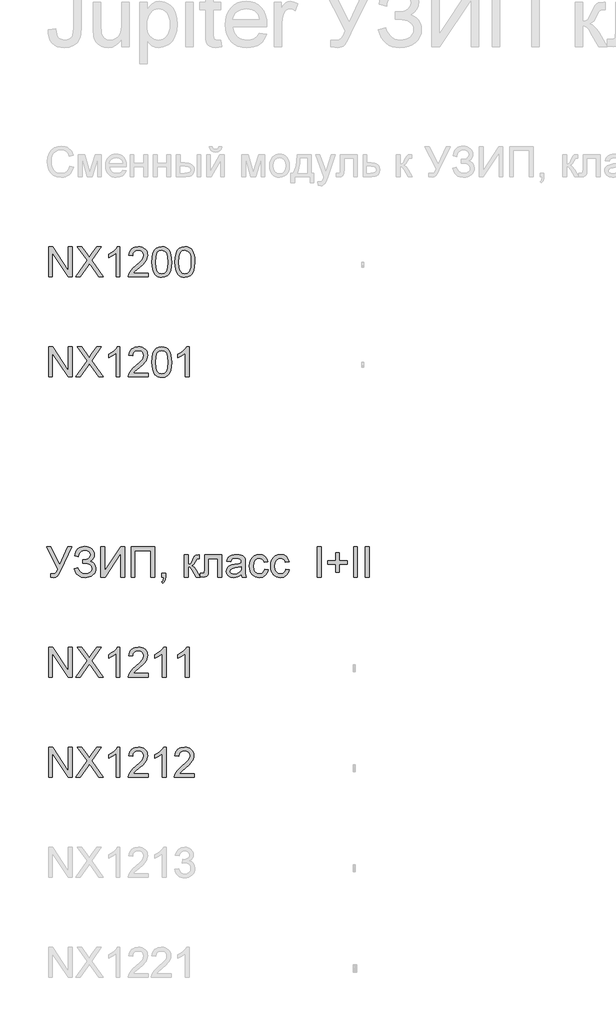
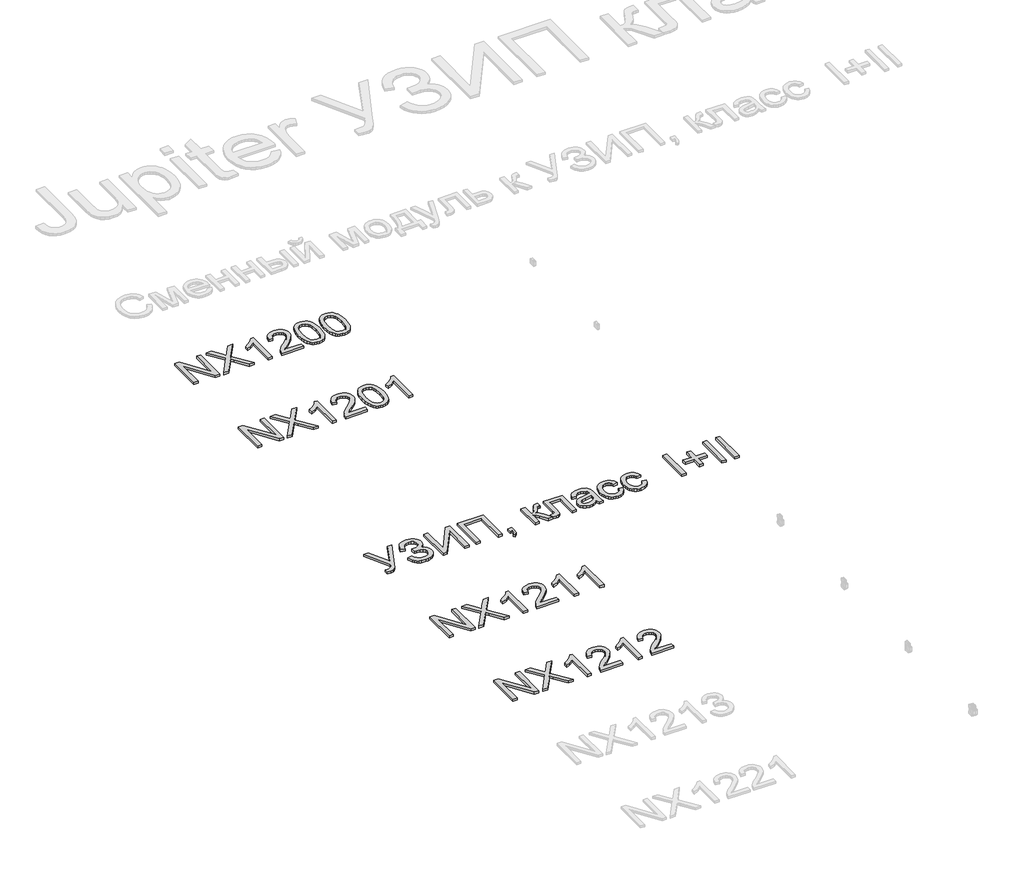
# One storey, part 30 of 124: 5 proxies.
"""IFC4 building model written with IfcOpenShell, lengths in millimetres."""

from ifc_helpers import new_model, si_unit, origin, origin_with_axes, place, context, project, spatial, polyline, outline, extrude, element, save

model = new_model("IFC4")

# Units and contexts
model_context = context("Model", 3, world=origin())
ifc_project = project(units=[si_unit("LENGTHUNIT", "METRE", prefix="MILLI")], contexts=[model_context])

# Site, building, storey
site = spatial("IfcSite", under=ifc_project)
building = spatial("IfcBuilding", under=site)
storey = spatial("IfcBuildingStorey", under=building, Name="Этаж 01", Elevation=0.0)

# Proxies
placement = place(None, origin())
element("IfcBuildingElementProxy", 1, Name="300", ObjectType="300", at=placement, inside=storey, context=model_context, shape_type="SweptSolid", body=[
    extrude(outline(polyline([(49499.8220677, -102181.4490745), (49499.8220677, -101880.080144), (49540.1419344, -101880.080144), (49697.5954283, -102118.8355589), (49697.5954283, -101880.080144), (49735.2665446, -101880.080144), (49735.2665446, -102181.4490745), (49694.9466779, -102181.4490745), (49537.493184, -101942.6200832), (49537.493184, -102181.4490745), (49499.8220677, -102181.4490745)])), origin_with_axes(), (0.0, 0.0, 1.0), 20.0),
    extrude(outline(polyline([(49768.2287714, -102181.4490745), (49884.4059055, -102017.2265518), (49787.0643295, -101880.080144), (49832.2402385, -101880.080144), (49887.0546558, -101957.2617866), (49905.522332, -101987.3545338), (49927.1537933, -101956.7467518), (49981.3795994, -101880.080144), (50027.217696, -101880.080144), (49929.8761201, -102017.6680102), (50046.0532541, -102181.4490745), (50000.8773451, -102181.4490745), (49923.4749733, -102072.2616983), (49907.361742, -102049.6001674), (49889.6298298, -102074.4689903), (49814.066868, -102181.4490745), (49768.2287714, -102181.4490745)])), origin_with_axes(), (0.0, 0.0, 1.0), 20.0),
    extrude(outline(polyline([(50210.864388, -102181.4490745), (50173.1932717, -102181.4490745), (50173.1932717, -101946.5932087), (50137.5087181, -101972.0138546), (50097.8510391, -101991.0333538), (50097.8510391, -101955.4223766), (50127.4379485, -101939.3275393), (50153.0701265, -101920.1792815), (50173.2760451, -101899.817013), (50186.5841763, -101880.080144), (50210.864388, -101880.080144), (50210.864388, -102181.4490745)])), origin_with_axes(), (0.0, 0.0, 1.0), 20.0),
    extrude(outline(polyline([(50493.3977603, -102143.7779581), (50493.3977603, -102181.4490745), (50295.6243997, -102181.4490745), (50299.6711016, -102155.4766056), (50308.960122, -102135.1787165), (50322.5533617, -102115.4878327), (50342.2166543, -102094.8772439), (50369.7158335, -102071.8202399), (50410.366794, -102035.7126221), (50434.7573702, -102009.0595715), (50446.9526584, -101987.4281102), (50451.0177544, -101966.3852601), (50447.1825846, -101947.5221108), (50435.6770752, -101931.8411407), (50417.9911483, -101921.2737304), (50395.6147259, -101917.7512603), (50372.1162635, -101921.190957), (50353.8601195, -101931.5100469), (50342.0786986, -101947.8991898), (50338.0044055, -101969.5490452), (50300.3332892, -101964.8401557), (50309.4659597, -101928.4014441), (50318.0123183, -101913.8655067), (50329.2120258, -101901.7851817), (50342.8075648, -101892.2892277), (50358.5414179, -101885.5064034), (50396.4240663, -101880.080144), (50416.6138901, -101881.5884602), (50434.5826263, -101886.1134087), (50450.3302749, -101893.6549896), (50463.8568361, -101904.2132029), (50474.7208512, -101917.0062993), (50482.4808621, -101931.2525295), (50487.1368686, -101946.9518937), (50488.6888707, -101964.1043917), (50487.0150077, -101982.1214124), (50481.9934184, -101999.8257334), (50473.0814771, -102017.8335571), (50459.7365577, -102036.7610858), (50438.4637813, -102059.3582373), (50405.768269, -102088.3749297), (50362.43177, -102124.6113062), (50345.4356218, -102143.7779581), (50493.3977603, -102143.7779581)])), origin_with_axes(), (0.0, 0.0, 1.0), 20.0),
    extrude(outline(polyline([(50531.0688766, -102033.1926304), (50533.8371886, -101984.9541038), (50542.1421246, -101946.4828441), (50555.9009112, -101917.1902403), (50575.030775, -101896.487681), (50599.6696716, -101884.1820283), (50629.9555569, -101880.080144), (50653.1689108, -101882.5081652), (50673.9542435, -101889.7922287), (50691.3366678, -101901.647226), (50704.3412963, -101917.7880485), (50714.1637456, -101938.0767405), (50721.9996321, -101962.3753463), (50727.1315859, -101993.2314487), (50728.8422372, -102033.1926304), (50726.1015163, -102081.1552455), (50717.8793537, -102119.5345347), (50704.2033406, -102148.8547297), (50685.101068, -102169.6400624), (50660.406989, -102182.0284886), (50629.9555569, -102186.157964), (50609.2070123, -102184.3645393), (50590.8129126, -102178.9842651), (50574.7732576, -102170.0171415), (50561.0880474, -102157.4631684), (50547.9546602, -102134.7694478), (50538.5736693, -102106.4931179), (50532.9450747, -102072.6341788), (50531.0688766, -102033.1926304)]), holes=[polyline([(50568.7399929, -102033.119054), (50573.1545768, -102092.3756464), (50578.6728067, -102112.643645), (50586.3983286, -102126.6714454), (50606.1168036, -102143.0329971), (50629.9555569, -102148.4868477), (50653.7943102, -102143.014603), (50673.5127851, -102126.597869), (50681.238307, -102112.547076), (50686.7565369, -102092.2836759), (50691.1711209, -102033.119054), (50686.9036897, -101975.1960339), (50681.5694008, -101954.9947138), (50674.1013963, -101940.6335204), (50654.4197096, -101923.4718253), (50629.5140985, -101917.7512603), (50605.9328626, -101922.7912436), (50586.9869398, -101937.9111936), (50579.0039005, -101953.5461784), (50573.3017296, -101974.6258168), (50568.7399929, -102033.119054)])]), origin_with_axes(), (0.0, 0.0, 1.0), 20.0),
    extrude(outline(polyline([(50761.8044639, -102033.1926304), (50764.572776, -101984.9541038), (50772.877712, -101946.4828441), (50786.6364986, -101917.1902403), (50805.7663624, -101896.487681), (50830.405259, -101884.1820283), (50860.6911443, -101880.080144), (50883.9044981, -101882.5081652), (50904.6898309, -101889.7922287), (50922.0722551, -101901.647226), (50935.0768837, -101917.7880485), (50944.8993329, -101938.0767405), (50952.7352194, -101962.3753463), (50957.8671733, -101993.2314487), (50959.5778246, -102033.1926304), (50956.8371037, -102081.1552455), (50948.6149411, -102119.5345347), (50934.9389279, -102148.8547297), (50915.8366553, -102169.6400624), (50891.1425764, -102182.0284886), (50860.6911443, -102186.157964), (50839.9425997, -102184.3645393), (50821.5485, -102178.9842651), (50805.508845, -102170.0171415), (50791.8236348, -102157.4631684), (50778.6902475, -102134.7694478), (50769.3092566, -102106.4931179), (50763.6806621, -102072.6341788), (50761.8044639, -102033.1926304)]), holes=[polyline([(50799.4755803, -102033.119054), (50803.8901642, -102092.3756464), (50809.4083941, -102112.643645), (50817.133916, -102126.6714454), (50836.852391, -102143.0329971), (50860.6911443, -102148.4868477), (50884.5298975, -102143.014603), (50904.2483725, -102126.597869), (50911.9738944, -102112.547076), (50917.4921243, -102092.2836759), (50921.9067082, -102033.119054), (50917.6392771, -101975.1960339), (50912.3049882, -101954.9947138), (50904.8369837, -101940.6335204), (50885.1552969, -101923.4718253), (50860.2496859, -101917.7512603), (50836.66845, -101922.7912436), (50817.7225272, -101937.9111936), (50809.7394879, -101953.5461784), (50804.037317, -101974.6258168), (50799.4755803, -102033.119054)])]), origin_with_axes(), (0.0, 0.0, 1.0), 20.0),
])
element("IfcBuildingElementProxy", 2, Name="300", ObjectType="300", at=placement, inside=storey, context=model_context, shape_type="SweptSolid", body=[
    extrude(outline(polyline([(49499.8220677, -103181.4490745), (49499.8220677, -102880.080144), (49540.1419344, -102880.080144), (49697.5954283, -103118.8355589), (49697.5954283, -102880.080144), (49735.2665446, -102880.080144), (49735.2665446, -103181.4490745), (49694.9466779, -103181.4490745), (49537.493184, -102942.6200832), (49537.493184, -103181.4490745), (49499.8220677, -103181.4490745)])), origin_with_axes(), (0.0, 0.0, 1.0), 20.0),
    extrude(outline(polyline([(49768.2287714, -103181.4490745), (49884.4059055, -103017.2265518), (49787.0643295, -102880.080144), (49832.2402385, -102880.080144), (49887.0546558, -102957.2617866), (49905.522332, -102987.3545338), (49927.1537933, -102956.7467518), (49981.3795994, -102880.080144), (50027.217696, -102880.080144), (49929.8761201, -103017.6680102), (50046.0532541, -103181.4490745), (50000.8773451, -103181.4490745), (49923.4749733, -103072.2616983), (49907.361742, -103049.6001674), (49889.6298298, -103074.4689903), (49814.066868, -103181.4490745), (49768.2287714, -103181.4490745)])), origin_with_axes(), (0.0, 0.0, 1.0), 20.0),
    extrude(outline(polyline([(50210.864388, -103181.4490745), (50173.1932717, -103181.4490745), (50173.1932717, -102946.5932087), (50137.5087181, -102972.0138546), (50097.8510391, -102991.0333538), (50097.8510391, -102955.4223766), (50127.4379485, -102939.3275393), (50153.0701265, -102920.1792815), (50173.2760451, -102899.817013), (50186.5841763, -102880.080144), (50210.864388, -102880.080144), (50210.864388, -103181.4490745)])), origin_with_axes(), (0.0, 0.0, 1.0), 20.0),
    extrude(outline(polyline([(50493.3977603, -103143.7779581), (50493.3977603, -103181.4490745), (50295.6243997, -103181.4490745), (50299.6711016, -103155.4766056), (50308.960122, -103135.1787165), (50322.5533617, -103115.4878327), (50342.2166543, -103094.8772439), (50369.7158335, -103071.8202399), (50410.366794, -103035.7126221), (50434.7573702, -103009.0595715), (50446.9526584, -102987.4281102), (50451.0177544, -102966.3852601), (50447.1825846, -102947.5221108), (50435.6770752, -102931.8411407), (50417.9911483, -102921.2737304), (50395.6147259, -102917.7512603), (50372.1162635, -102921.190957), (50353.8601195, -102931.5100469), (50342.0786986, -102947.8991898), (50338.0044055, -102969.5490452), (50300.3332892, -102964.8401557), (50309.4659597, -102928.4014441), (50318.0123183, -102913.8655067), (50329.2120258, -102901.7851817), (50342.8075648, -102892.2892277), (50358.5414179, -102885.5064034), (50396.4240663, -102880.080144), (50416.6138901, -102881.5884602), (50434.5826263, -102886.1134087), (50450.3302749, -102893.6549896), (50463.8568361, -102904.2132029), (50474.7208512, -102917.0062993), (50482.4808621, -102931.2525295), (50487.1368686, -102946.9518937), (50488.6888707, -102964.1043917), (50487.0150077, -102982.1214124), (50481.9934184, -102999.8257334), (50473.0814771, -103017.8335571), (50459.7365577, -103036.7610858), (50438.4637813, -103059.3582373), (50405.768269, -103088.3749297), (50362.43177, -103124.6113062), (50345.4356218, -103143.7779581), (50493.3977603, -103143.7779581)])), origin_with_axes(), (0.0, 0.0, 1.0), 20.0),
    extrude(outline(polyline([(50531.0688766, -103033.1926304), (50533.8371886, -102984.9541038), (50542.1421246, -102946.4828441), (50555.9009112, -102917.1902403), (50575.030775, -102896.487681), (50599.6696716, -102884.1820283), (50629.9555569, -102880.080144), (50653.1689108, -102882.5081652), (50673.9542435, -102889.7922287), (50691.3366678, -102901.647226), (50704.3412963, -102917.7880485), (50714.1637456, -102938.0767405), (50721.9996321, -102962.3753463), (50727.1315859, -102993.2314487), (50728.8422372, -103033.1926304), (50726.1015163, -103081.1552455), (50717.8793537, -103119.5345347), (50704.2033406, -103148.8547297), (50685.101068, -103169.6400624), (50660.406989, -103182.0284886), (50629.9555569, -103186.157964), (50609.2070123, -103184.3645393), (50590.8129126, -103178.9842651), (50574.7732576, -103170.0171415), (50561.0880474, -103157.4631684), (50547.9546602, -103134.7694478), (50538.5736693, -103106.4931179), (50532.9450747, -103072.6341788), (50531.0688766, -103033.1926304)]), holes=[polyline([(50568.7399929, -103033.119054), (50573.1545768, -103092.3756464), (50578.6728067, -103112.643645), (50586.3983286, -103126.6714454), (50606.1168036, -103143.0329971), (50629.9555569, -103148.4868477), (50653.7943102, -103143.014603), (50673.5127851, -103126.597869), (50681.238307, -103112.547076), (50686.7565369, -103092.2836759), (50691.1711209, -103033.119054), (50686.9036897, -102975.1960339), (50681.5694008, -102954.9947138), (50674.1013963, -102940.6335204), (50654.4197096, -102923.4718253), (50629.5140985, -102917.7512603), (50605.9328626, -102922.7912436), (50586.9869398, -102937.9111936), (50579.0039005, -102953.5461784), (50573.3017296, -102974.6258168), (50568.7399929, -103033.119054)])]), origin_with_axes(), (0.0, 0.0, 1.0), 20.0),
    extrude(outline(polyline([(50903.0711501, -103181.4490745), (50865.4000338, -103181.4490745), (50865.4000338, -102946.5932087), (50829.7154803, -102972.0138546), (50790.0578012, -102991.0333538), (50790.0578012, -102955.4223766), (50819.6447106, -102939.3275393), (50845.2768887, -102920.1792815), (50865.4828072, -102899.817013), (50878.7909384, -102880.080144), (50903.0711501, -102880.080144), (50903.0711501, -103181.4490745)])), origin_with_axes(), (0.0, 0.0, 1.0), 20.0),
])
element("IfcBuildingElementProxy", 3, Name="300", ObjectType="300", at=placement, inside=storey, context=model_context, shape_type="SweptSolid", body=[
    extrude(outline(polyline([(49478.6320648, -104880.080144), (49520.349883, -104880.080144), (49610.4809718, -105058.5764881), (49691.5621636, -104880.080144), (49732.9120998, -104880.080144), (49618.5007993, -105114.8624333), (49601.2287397, -105151.319539), (49587.3779825, -105172.5463302), (49572.6075204, -105182.7550555), (49552.5763458, -105186.157964), (49518.6576258, -105181.4490745), (49518.6576258, -105148.4868477), (49548.3089147, -105148.4868477), (49560.173109, -105146.3899203), (49570.308258, -105140.0991382), (49580.0387367, -105126.3587457), (49590.6889205, -105101.9129871), (49478.6320648, -104880.080144)])), origin_with_axes(), (0.0, 0.0, 1.0), 20.0),
    extrude(outline(polyline([(49754.1021028, -105096.6890628), (49791.7732191, -105087.2712837), (49799.7286672, -105107.6611433), (49814.9129966, -105128.069397), (49836.7743841, -105143.382485), (49864.7610069, -105148.4868477), (49893.1155117, -105144.6516779), (49914.7561701, -105133.1461685), (49928.4689714, -105116.2143997), (49933.0399052, -105096.1004516), (49928.0459071, -105075.0300103), (49913.0639129, -105058.7604291), (49889.4734799, -105048.3585656), (49858.6541658, -105044.8912778), (49838.8621144, -105044.8912778), (49838.8621144, -105007.2201615), (49881.4996377, -105004.166741), (49895.3963801, -104998.7404815), (49907.5824711, -104988.5685444), (49916.0805452, -104975.1684427), (49918.9132366, -104960.0576898), (49915.1424461, -104942.3165805), (49903.8300748, -104927.0586748), (49886.0797685, -104916.5464468), (49862.9951733, -104913.0423708), (49842.1270672, -104915.7371064), (49824.5515048, -104923.8213132), (49811.0870238, -104936.3568922), (49802.5521615, -104952.4057443), (49796.4821086, -104978.9668243), (49758.8109923, -104969.5490452), (49770.5142383, -104928.3462618), (49779.9285685, -104912.159454), (49791.7180368, -104898.9157022), (49805.8826432, -104888.6150063), (49822.4223878, -104881.2573664), (49841.3372705, -104876.8427824), (49862.6272913, -104875.3712545), (49883.1390118, -104876.900264), (49901.4112507, -104881.4872926), (49917.4440079, -104889.1323403), (49931.2372834, -104899.8354071), (49942.3266263, -104912.5848175), (49950.2475855, -104926.368896), (49955.0001611, -104941.1876427), (49956.5843529, -104957.0410574), (49954.1195435, -104976.8652984), (49946.7251154, -104994.3258976), (49934.4010686, -105009.422855), (49917.147403, -105022.1561705), (49938.0982826, -105031.8038759), (49955.3335541, -105048.0918512), (49966.8666547, -105069.622145), (49970.7110215, -105094.9968056), (49968.867013, -105113.6277294), (49963.3349875, -105130.6721621), (49954.114945, -105146.1301037), (49941.2068855, -105160.0015541), (49925.2546025, -105171.4449834), (49906.9018895, -105179.6188615), (49886.1487464, -105184.5231884), (49862.9951733, -105186.157964), (49824.7906281, -105180.5661577), (49808.4336749, -105173.5763998), (49793.9069346, -105163.7907387), (49781.2104073, -105151.2091745), (49770.3440928, -105135.8317071), (49754.1021028, -105096.6890628)])), origin_with_axes(), (0.0, 0.0, 1.0), 20.0),
    extrude(outline(polyline([(50022.5088064, -104880.080144), (50060.1799227, -104880.080144), (50060.1799227, -105118.7619825), (50217.9277223, -104880.080144), (50257.9532834, -104880.080144), (50257.9532834, -105181.4490745), (50220.282167, -105181.4490745), (50220.282167, -104943.4294236), (50062.9022495, -105181.4490745), (50022.5088064, -105181.4490745), (50022.5088064, -104880.080144)])), origin_with_axes(), (0.0, 0.0, 1.0), 20.0),
    extrude(outline(polyline([(50323.8777369, -104880.080144), (50559.3222138, -104880.080144), (50559.3222138, -105181.4490745), (50521.6510975, -105181.4490745), (50521.6510975, -104917.7512603), (50361.5488532, -104917.7512603), (50361.5488532, -105181.4490745), (50323.8777369, -105181.4490745), (50323.8777369, -104880.080144)])), origin_with_axes(), (0.0, 0.0, 1.0), 20.0),
    extrude(outline(polyline([(50629.9555569, -105181.4490745), (50629.9555569, -105143.7779581), (50667.6266732, -105143.7779581), (50667.6266732, -105181.4490745), (50665.934416, -105202.9977623), (50660.8576445, -105219.9663193), (50652.102053, -105232.9801449), (50639.373336, -105242.6646385), (50629.9555569, -105228.5379698), (50638.1225372, -105221.7137588), (50643.7879199, -105212.2775856), (50648.7175386, -105181.4490745), (50629.9555569, -105181.4490745)])), origin_with_axes(), (0.0, 0.0, 1.0), 20.0),
    extrude(outline(polyline([(50855.9822547, -104960.1312662), (50893.653371, -104960.1312662), (50893.653371, -105054.3090569), (50908.9756561, -105052.6167997), (50918.8900759, -105047.5400282), (50927.6640615, -105034.2962764), (50939.565044, -105008.1030783), (50956.7451332, -104974.0739938), (50971.9018714, -104963.0007457), (50999.4562328, -104960.1312662), (51006.6667199, -104960.1312662), (51006.6667199, -104998.0231117), (50996.5131769, -104997.8023825), (50978.1190771, -105001.775508), (50965.1696309, -105026.5707545), (50949.9761045, -105053.3893519), (50928.675737, -105066.5227392), (50940.6135077, -105071.8248384), (50952.4409138, -105081.1828367), (50975.7646323, -105112.0665302), (51016.084499, -105181.4490745), (50973.2630348, -105181.4490745), (50933.7525085, -105113.5380581), (50913.8868808, -105084.8064743), (50904.5978604, -105079.591747), (50893.653371, -105077.8535046), (50893.653371, -105181.4490745), (50855.9822547, -105181.4490745), (50855.9822547, -104960.1312662)])), origin_with_axes(), (0.0, 0.0, 1.0), 20.0),
    extrude(outline(polyline([(51058.4645049, -104960.1312662), (51227.9845282, -104960.1312662), (51227.9845282, -105181.2283453), (51190.3134119, -105181.2283453), (51190.3134119, -104997.8023825), (51096.1356212, -104997.8023825), (51096.1356212, -105103.3845151), (51093.5972354, -105152.0920912), (51088.8423606, -105163.119354), (51079.6545078, -105172.6566948), (51065.7117802, -105179.2509795), (51046.692281, -105181.4490745), (51016.084499, -105179.5360881), (51016.084499, -105143.7779581), (51032.9334944, -105143.7779581), (51049.9664308, -105141.4603016), (51056.7722477, -105134.1026617), (51058.4645049, -105101.2507995), (51058.4645049, -104960.1312662)])), origin_with_axes(), (0.0, 0.0, 1.0), 20.0),
    extrude(outline(polyline([(51425.7578888, -105153.1957372), (51407.7592622, -105168.6283869), (51389.2272067, -105178.7267477), (51369.738658, -105184.3001599), (51348.8705519, -105186.157964), (51317.3890501, -105181.6881978), (51294.1664992, -105168.278899), (51279.8466925, -105147.9166306), (51275.0734236, -105122.5879552), (51276.8760454, -105106.9713645), (51282.2839107, -105092.7895136), (51290.625635, -105080.6494078), (51301.2298335, -105071.1580523), (51327.6069725, -105058.7972173), (51360.2013173, -105053.1318345), (51398.7185622, -105047.1721462), (51425.5371596, -105040.1823883), (51425.7578888, -105031.7946788), (51423.1643208, -105014.9824716), (51415.3836166, -105003.9828), (51397.9827982, -104995.8158197), (51373.7393747, -104993.0934929), (51351.298573, -104994.9053117), (51335.6268, -105000.3407682), (51324.9398281, -105010.3931437), (51317.4534295, -105026.0557197), (51279.7823132, -105021.3468302), (51286.3214156, -105000.7454384), (51296.0794855, -104984.5586306), (51309.9670309, -104972.1794015), (51328.8945595, -104963.0007457), (51352.0435341, -104957.3169689), (51378.5954171, -104955.4223766), (51404.0620482, -104957.0962397), (51424.2495727, -104962.1178289), (51439.4706902, -104969.6686069), (51450.0381005, -104978.9300361), (51457.0462525, -104990.3803632), (51461.5895952, -105004.4978348), (51463.4290051, -105037.4600615), (51463.4290051, -105084.3282277), (51465.3419915, -105149.7744347), (51472.8467842, -105181.4490745), (51435.1756679, -105181.4490745), (51425.7578888, -105153.1957372)]), holes=[polyline([(51425.7578888, -105077.8535046), (51364.9837832, -105089.4049993), (51332.5733795, -105095.5118404), (51317.8948879, -105105.4446543), (51312.7445399, -105119.9392049), (51315.5496401, -105131.1412116), (51323.9649408, -105140.3198674), (51337.8065008, -105146.4451026), (51356.8903793, -105148.4868477), (51377.1238891, -105146.2335705), (51395.002954, -105139.4737388), (51409.4975047, -105129.5133338), (51419.5774713, -105117.6583365), (51424.0472376, -105105.4446543), (51425.5371596, -105088.5220825), (51425.7578888, -105077.8535046)])]), origin_with_axes(), (0.0, 0.0, 1.0), 20.0),
    extrude(outline(polyline([(51656.4934762, -105101.3979523), (51694.1645925, -105106.1068418), (51683.6615616, -105139.6116946), (51663.9246925, -105164.9311729), (51636.8117895, -105180.8512662), (51604.1806565, -105186.157964), (51583.0527337, -105184.3070577), (51564.1091102, -105178.7543388), (51547.349786, -105169.4998074), (51532.7747612, -105156.5434634), (51520.9772455, -105140.1290286), (51512.5504486, -105120.5002249), (51507.4943704, -105097.6570523), (51505.809011, -105071.5995107), (51508.6876876, -105038.0762639), (51517.3237174, -105009.0227833), (51531.8550563, -104985.5611091), (51552.4196598, -104968.8132812), (51577.0217682, -104958.7701028), (51603.6656217, -104955.4223766), (51635.4966113, -104960.0209016), (51660.9448484, -104973.8164764), (51679.2009924, -104996.0733371), (51689.455703, -105026.0557197), (51651.7845867, -105030.7646092), (51644.9511786, -105014.3294811), (51634.3101919, -105002.5480602), (51620.4502377, -104995.4571347), (51603.9599273, -104993.0934929), (51579.6153363, -104997.7472002), (51560.2923345, -105011.7083219), (51547.6831791, -105035.7310162), (51543.4801273, -105070.5694411), (51547.5912086, -105105.8769156), (51559.9244525, -105129.9823833), (51578.8979664, -105143.8607316), (51602.9298577, -105148.4868477), (51622.4368005, -105145.598974), (51638.4304703, -105136.935353), (51650.0647384, -105122.2752555), (51656.4934762, -105101.3979523)])), origin_with_axes(), (0.0, 0.0, 1.0), 20.0),
    extrude(outline(polyline([(51868.3935054, -105101.3979523), (51906.0646217, -105106.1068418), (51895.5615908, -105139.6116946), (51875.8247217, -105164.9311729), (51848.7118187, -105180.8512662), (51816.0806857, -105186.157964), (51794.9527629, -105184.3070577), (51776.0091394, -105178.7543388), (51759.2498153, -105169.4998074), (51744.6747905, -105156.5434634), (51732.8772747, -105140.1290286), (51724.4504778, -105120.5002249), (51719.3943996, -105097.6570523), (51717.7090402, -105071.5995107), (51720.5877168, -105038.0762639), (51729.2237467, -105009.0227833), (51743.7550855, -104985.5611091), (51764.319689, -104968.8132812), (51788.9217974, -104958.7701028), (51815.5656509, -104955.4223766), (51847.3966406, -104960.0209016), (51872.8448776, -104973.8164764), (51891.1010216, -104996.0733371), (51901.3557322, -105026.0557197), (51863.6846159, -105030.7646092), (51856.8512078, -105014.3294811), (51846.2102211, -105002.5480602), (51832.350267, -104995.4571347), (51815.8599565, -104993.0934929), (51791.5153655, -104997.7472002), (51772.1923637, -105011.7083219), (51759.5832083, -105035.7310162), (51755.3801565, -105070.5694411), (51759.4912378, -105105.8769156), (51771.8244817, -105129.9823833), (51790.7979956, -105143.8607316), (51814.8298869, -105148.4868477), (51834.3368297, -105145.598974), (51850.3304995, -105136.935353), (51861.9647676, -105122.2752555), (51868.3935054, -105101.3979523)])), origin_with_axes(), (0.0, 0.0, 1.0), 20.0),
    extrude(outline(polyline([(52183.8891045, -105181.4490745), (52183.8891045, -104880.080144), (52221.5602208, -104880.080144), (52221.5602208, -105181.4490745), (52183.8891045, -105181.4490745)])), origin_with_axes(), (0.0, 0.0, 1.0), 20.0),
    extrude(outline(polyline([(52367.5357965, -105134.3601791), (52367.5357965, -105054.3090569), (52287.4846743, -105054.3090569), (52287.4846743, -105016.6379406), (52367.5357965, -105016.6379406), (52367.5357965, -104936.5868185), (52405.2069128, -104936.5868185), (52405.2069128, -105016.6379406), (52485.258035, -105016.6379406), (52485.258035, -105054.3090569), (52405.2069128, -105054.3090569), (52405.2069128, -105134.3601791), (52367.5357965, -105134.3601791)])), origin_with_axes(), (0.0, 0.0, 1.0), 20.0),
    extrude(outline(polyline([(52546.4735989, -105181.4490745), (52546.4735989, -104880.080144), (52584.1447153, -104880.080144), (52584.1447153, -105181.4490745), (52546.4735989, -105181.4490745)])), origin_with_axes(), (0.0, 0.0, 1.0), 20.0),
    extrude(outline(polyline([(52664.1958374, -105181.4490745), (52664.1958374, -104880.080144), (52701.8669537, -104880.080144), (52701.8669537, -105181.4490745), (52664.1958374, -105181.4490745)])), origin_with_axes(), (0.0, 0.0, 1.0), 20.0),
])
element("IfcBuildingElementProxy", 4, Name="300", ObjectType="300", at=placement, inside=storey, context=model_context, shape_type="SweptSolid", body=[
    extrude(outline(polyline([(49499.8220677, -106181.4490745), (49499.8220677, -105880.080144), (49540.1419344, -105880.080144), (49697.5954283, -106118.8355589), (49697.5954283, -105880.080144), (49735.2665446, -105880.080144), (49735.2665446, -106181.4490745), (49694.9466779, -106181.4490745), (49537.493184, -105942.6200832), (49537.493184, -106181.4490745), (49499.8220677, -106181.4490745)])), origin_with_axes(), (0.0, 0.0, 1.0), 20.0),
    extrude(outline(polyline([(49768.2287714, -106181.4490745), (49884.4059055, -106017.2265518), (49787.0643295, -105880.080144), (49832.2402385, -105880.080144), (49887.0546558, -105957.2617866), (49905.522332, -105987.3545338), (49927.1537933, -105956.7467518), (49981.3795994, -105880.080144), (50027.217696, -105880.080144), (49929.8761201, -106017.6680102), (50046.0532541, -106181.4490745), (50000.8773451, -106181.4490745), (49923.4749733, -106072.2616983), (49907.361742, -106049.6001674), (49889.6298298, -106074.4689903), (49814.066868, -106181.4490745), (49768.2287714, -106181.4490745)])), origin_with_axes(), (0.0, 0.0, 1.0), 20.0),
    extrude(outline(polyline([(50210.864388, -106181.4490745), (50173.1932717, -106181.4490745), (50173.1932717, -105946.5932087), (50137.5087181, -105972.0138546), (50097.8510391, -105991.0333538), (50097.8510391, -105955.4223766), (50127.4379485, -105939.3275393), (50153.0701265, -105920.1792815), (50173.2760451, -105899.817013), (50186.5841763, -105880.080144), (50210.864388, -105880.080144), (50210.864388, -106181.4490745)])), origin_with_axes(), (0.0, 0.0, 1.0), 20.0),
    extrude(outline(polyline([(50493.3977603, -106143.7779581), (50493.3977603, -106181.4490745), (50295.6243997, -106181.4490745), (50299.6711016, -106155.4766056), (50308.960122, -106135.1787165), (50322.5533617, -106115.4878327), (50342.2166543, -106094.8772439), (50369.7158335, -106071.8202399), (50410.366794, -106035.7126221), (50434.7573702, -106009.0595715), (50446.9526584, -105987.4281102), (50451.0177544, -105966.3852601), (50447.1825846, -105947.5221108), (50435.6770752, -105931.8411407), (50417.9911483, -105921.2737304), (50395.6147259, -105917.7512603), (50372.1162635, -105921.190957), (50353.8601195, -105931.5100469), (50342.0786986, -105947.8991898), (50338.0044055, -105969.5490452), (50300.3332892, -105964.8401557), (50309.4659597, -105928.4014441), (50318.0123183, -105913.8655067), (50329.2120258, -105901.7851817), (50342.8075648, -105892.2892277), (50358.5414179, -105885.5064034), (50396.4240663, -105880.080144), (50416.6138901, -105881.5884602), (50434.5826263, -105886.1134087), (50450.3302749, -105893.6549896), (50463.8568361, -105904.2132029), (50474.7208512, -105917.0062993), (50482.4808621, -105931.2525295), (50487.1368686, -105946.9518937), (50488.6888707, -105964.1043917), (50487.0150077, -105982.1214124), (50481.9934184, -105999.8257334), (50473.0814771, -106017.8335571), (50459.7365577, -106036.7610858), (50438.4637813, -106059.3582373), (50405.768269, -106088.3749297), (50362.43177, -106124.6113062), (50345.4356218, -106143.7779581), (50493.3977603, -106143.7779581)])), origin_with_axes(), (0.0, 0.0, 1.0), 20.0),
    extrude(outline(polyline([(50672.3355627, -106181.4490745), (50634.6644464, -106181.4490745), (50634.6644464, -105946.5932087), (50598.9798929, -105972.0138546), (50559.3222138, -105991.0333538), (50559.3222138, -105955.4223766), (50588.9091233, -105939.3275393), (50614.5413013, -105920.1792815), (50634.7472199, -105899.817013), (50648.055351, -105880.080144), (50672.3355627, -105880.080144), (50672.3355627, -106181.4490745)])), origin_with_axes(), (0.0, 0.0, 1.0), 20.0),
    extrude(outline(polyline([(50903.0711501, -106181.4490745), (50865.4000338, -106181.4490745), (50865.4000338, -105946.5932087), (50829.7154803, -105972.0138546), (50790.0578012, -105991.0333538), (50790.0578012, -105955.4223766), (50819.6447106, -105939.3275393), (50845.2768887, -105920.1792815), (50865.4828072, -105899.817013), (50878.7909384, -105880.080144), (50903.0711501, -105880.080144), (50903.0711501, -106181.4490745)])), origin_with_axes(), (0.0, 0.0, 1.0), 20.0),
])
element("IfcBuildingElementProxy", 5, Name="300", ObjectType="300", at=placement, inside=storey, context=model_context, shape_type="SweptSolid", body=[
    extrude(outline(polyline([(49499.8220677, -107181.4490745), (49499.8220677, -106880.080144), (49540.1419344, -106880.080144), (49697.5954283, -107118.8355589), (49697.5954283, -106880.080144), (49735.2665446, -106880.080144), (49735.2665446, -107181.4490745), (49694.9466779, -107181.4490745), (49537.493184, -106942.6200832), (49537.493184, -107181.4490745), (49499.8220677, -107181.4490745)])), origin_with_axes(), (0.0, 0.0, 1.0), 20.0),
    extrude(outline(polyline([(49768.2287714, -107181.4490745), (49884.4059055, -107017.2265518), (49787.0643295, -106880.080144), (49832.2402385, -106880.080144), (49887.0546558, -106957.2617866), (49905.522332, -106987.3545338), (49927.1537933, -106956.7467518), (49981.3795994, -106880.080144), (50027.217696, -106880.080144), (49929.8761201, -107017.6680102), (50046.0532541, -107181.4490745), (50000.8773451, -107181.4490745), (49923.4749733, -107072.2616983), (49907.361742, -107049.6001674), (49889.6298298, -107074.4689903), (49814.066868, -107181.4490745), (49768.2287714, -107181.4490745)])), origin_with_axes(), (0.0, 0.0, 1.0), 20.0),
    extrude(outline(polyline([(50210.864388, -107181.4490745), (50173.1932717, -107181.4490745), (50173.1932717, -106946.5932087), (50137.5087181, -106972.0138546), (50097.8510391, -106991.0333538), (50097.8510391, -106955.4223766), (50127.4379485, -106939.3275393), (50153.0701265, -106920.1792815), (50173.2760451, -106899.817013), (50186.5841763, -106880.080144), (50210.864388, -106880.080144), (50210.864388, -107181.4490745)])), origin_with_axes(), (0.0, 0.0, 1.0), 20.0),
    extrude(outline(polyline([(50493.3977603, -107143.7779581), (50493.3977603, -107181.4490745), (50295.6243997, -107181.4490745), (50299.6711016, -107155.4766056), (50308.960122, -107135.1787165), (50322.5533617, -107115.4878327), (50342.2166543, -107094.8772439), (50369.7158335, -107071.8202399), (50410.366794, -107035.7126221), (50434.7573702, -107009.0595715), (50446.9526584, -106987.4281102), (50451.0177544, -106966.3852601), (50447.1825846, -106947.5221108), (50435.6770752, -106931.8411407), (50417.9911483, -106921.2737304), (50395.6147259, -106917.7512603), (50372.1162635, -106921.190957), (50353.8601195, -106931.5100469), (50342.0786986, -106947.8991898), (50338.0044055, -106969.5490452), (50300.3332892, -106964.8401557), (50309.4659597, -106928.4014441), (50318.0123183, -106913.8655067), (50329.2120258, -106901.7851817), (50342.8075648, -106892.2892277), (50358.5414179, -106885.5064034), (50396.4240663, -106880.080144), (50416.6138901, -106881.5884602), (50434.5826263, -106886.1134087), (50450.3302749, -106893.6549896), (50463.8568361, -106904.2132029), (50474.7208512, -106917.0062993), (50482.4808621, -106931.2525295), (50487.1368686, -106946.9518937), (50488.6888707, -106964.1043917), (50487.0150077, -106982.1214124), (50481.9934184, -106999.8257334), (50473.0814771, -107017.8335571), (50459.7365577, -107036.7610858), (50438.4637813, -107059.3582373), (50405.768269, -107088.3749297), (50362.43177, -107124.6113062), (50345.4356218, -107143.7779581), (50493.3977603, -107143.7779581)])), origin_with_axes(), (0.0, 0.0, 1.0), 20.0),
    extrude(outline(polyline([(50672.3355627, -107181.4490745), (50634.6644464, -107181.4490745), (50634.6644464, -106946.5932087), (50598.9798929, -106972.0138546), (50559.3222138, -106991.0333538), (50559.3222138, -106955.4223766), (50588.9091233, -106939.3275393), (50614.5413013, -106920.1792815), (50634.7472199, -106899.817013), (50648.055351, -106880.080144), (50672.3355627, -106880.080144), (50672.3355627, -107181.4490745)])), origin_with_axes(), (0.0, 0.0, 1.0), 20.0),
    extrude(outline(polyline([(50954.868935, -107143.7779581), (50954.868935, -107181.4490745), (50757.0955744, -107181.4490745), (50761.1422764, -107155.4766056), (50770.4312967, -107135.1787165), (50784.0245365, -107115.4878327), (50803.6878291, -107094.8772439), (50831.1870082, -107071.8202399), (50871.8379687, -107035.7126221), (50896.228545, -107009.0595715), (50908.4238331, -106987.4281102), (50912.4889292, -106966.3852601), (50908.6537594, -106947.5221108), (50897.14825, -106931.8411407), (50879.4623231, -106921.2737304), (50857.0859007, -106917.7512603), (50833.5874383, -106921.190957), (50815.3312942, -106931.5100469), (50803.5498734, -106947.8991898), (50799.4755803, -106969.5490452), (50761.8044639, -106964.8401557), (50770.9371345, -106928.4014441), (50779.4834931, -106913.8655067), (50790.6832006, -106901.7851817), (50804.2787396, -106892.2892277), (50820.0125926, -106885.5064034), (50857.8952411, -106880.080144), (50878.0850648, -106881.5884602), (50896.053801, -106886.1134087), (50911.8014497, -106893.6549896), (50925.3280108, -106904.2132029), (50936.192026, -106917.0062993), (50943.9520368, -106931.2525295), (50948.6080433, -106946.9518937), (50950.1600455, -106964.1043917), (50948.4861824, -106982.1214124), (50943.4645932, -106999.8257334), (50934.5526518, -107017.8335571), (50921.2077325, -107036.7610858), (50899.9349561, -107059.3582373), (50867.2394438, -107088.3749297), (50823.9029447, -107124.6113062), (50806.9067966, -107143.7779581), (50954.868935, -107143.7779581)])), origin_with_axes(), (0.0, 0.0, 1.0), 20.0),
])

save(model, "model.ifc")
